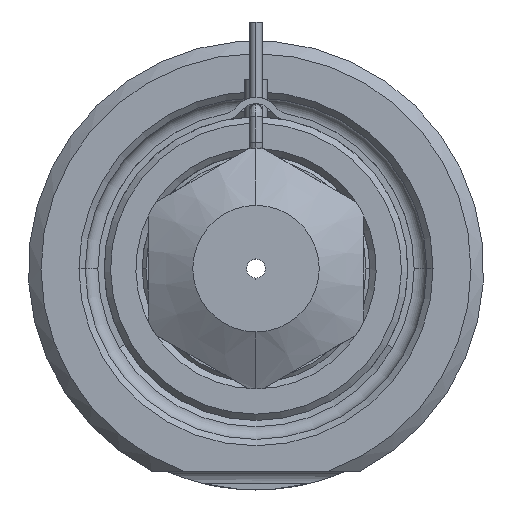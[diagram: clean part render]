
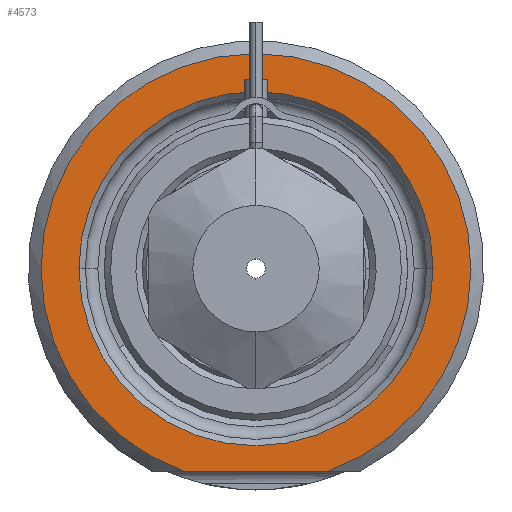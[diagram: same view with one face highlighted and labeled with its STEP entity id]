
A CAD part, front view. The second image highlights one B-rep face of the part: STEP entity #4573.
In plain terms, the highlighted planar face has unit normal (0, -1, 0).
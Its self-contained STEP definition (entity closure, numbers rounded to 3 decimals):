
#1336=DIRECTION('',(1.,0.,0.));
#1337=VECTOR('',#1336,11.489);
#1338=CARTESIAN_POINT('',(-5.745,0.,-16.));
#1339=LINE('',#1338,#1337);
#1340=CARTESIAN_POINT('',(0.,0.,0.));
#1341=DIRECTION('',(0.,1.,0.));
#1342=DIRECTION('',(-1.,0.,0.));
#1343=AXIS2_PLACEMENT_3D('',#1340,#1341,#1342);
#1345=CARTESIAN_POINT('',(0.,0.,0.));
#1346=DIRECTION('',(0.,1.,0.));
#1347=DIRECTION('',(1.,0.,0.));
#1348=AXIS2_PLACEMENT_3D('',#1345,#1346,#1347);
#1452=CARTESIAN_POINT('',(0.,0.,0.));
#1453=DIRECTION('',(0.,-1.,0.));
#1454=DIRECTION('',(0.338,0.,-0.941));
#1455=AXIS2_PLACEMENT_3D('',#1452,#1453,#1454);
#2501=CARTESIAN_POINT('',(-14.,0.,0.));
#2502=CARTESIAN_POINT('',(14.,0.,0.));
#2503=VERTEX_POINT('',#2501);
#2504=VERTEX_POINT('',#2502);
#2541=CARTESIAN_POINT('',(-5.745,0.,-16.));
#2542=CARTESIAN_POINT('',(5.745,0.,-16.));
#2543=VERTEX_POINT('',#2541);
#2544=VERTEX_POINT('',#2542);
#4557=CARTESIAN_POINT('',(0.,0.,0.));
#4558=DIRECTION('',(0.,-1.,0.));
#4559=DIRECTION('',(1.,0.,0.));
#4560=AXIS2_PLACEMENT_3D('',#4557,#4558,#4559);
#4561=PLANE('',#4560);
#4563=ORIENTED_EDGE('',*,*,#4562,.F.);
#4565=ORIENTED_EDGE('',*,*,#4564,.F.);
#4566=EDGE_LOOP('',(#4563,#4565));
#4567=FACE_OUTER_BOUND('',#4566,.F.);
#4569=ORIENTED_EDGE('',*,*,#4568,.F.);
#4570=ORIENTED_EDGE('',*,*,#4547,.F.);
#4571=EDGE_LOOP('',(#4569,#4570));
#4572=FACE_BOUND('',#4571,.F.);
#4573=ADVANCED_FACE('',(#4567,#4572),#4561,.T.);
#1344=CIRCLE('',#1343,14.);
#1349=CIRCLE('',#1348,14.);
#1456=CIRCLE('',#1455,17.);
#4547=EDGE_CURVE('',#2504,#2503,#1349,.T.);
#4562=EDGE_CURVE('',#2543,#2544,#1339,.T.);
#4564=EDGE_CURVE('',#2544,#2543,#1456,.T.);
#4568=EDGE_CURVE('',#2503,#2504,#1344,.T.);
